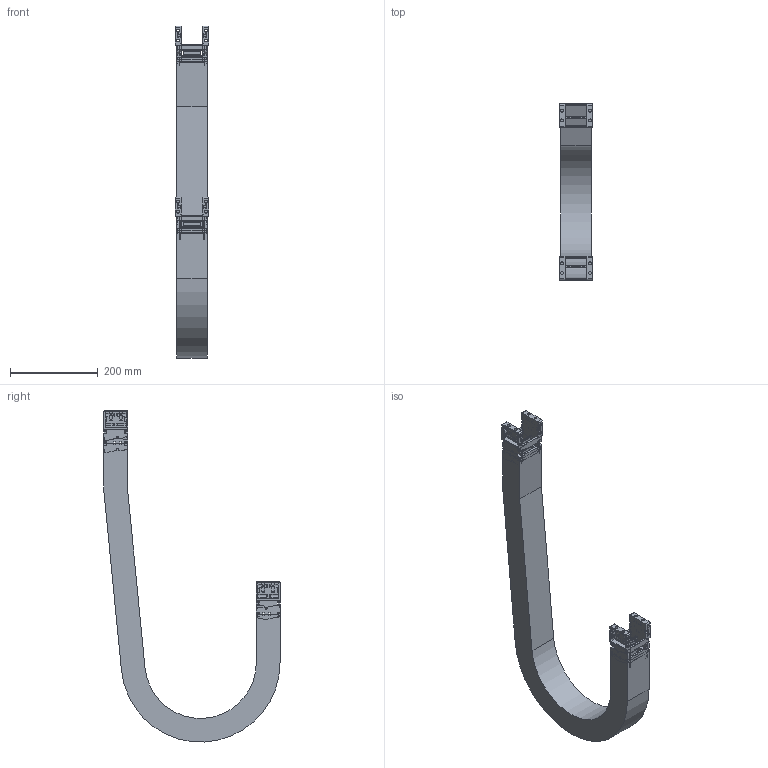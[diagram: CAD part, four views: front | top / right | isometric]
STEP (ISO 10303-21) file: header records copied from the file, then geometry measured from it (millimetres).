
FILE_DESCRIPTION((''),'2;1');
FILE_NAME('KST-40050-150_ASM','2017-12-06T',('KUNI004K'),(''),'PRO/ENGINEER BY PARAMETRIC TECHNOLOGY CORPORATION, 2015200','PRO/ENGINEER BY PARAMETRIC TECHNOLOGY CORPORATION, 2015200','');
FILE_SCHEMA(('AUTOMOTIVE_DESIGN { 1 0 10303 214 1 1 1 1 }'));
Length unit declared in the file: millimetre
Products named in the file (13): 40FBR; 40FBL; 40050C; KST40FB_W050_ASM; KST40150R; KST40150L; 40050H; KST40050-150_1_ASM; KST40050_R150_BODY; 40MBR; 40MBL; KST40MB_W050_ASM; KST-40050-150_ASM
Assembly tree (19 placements, depth 3):
  KST-40050-150_ASM
    KST40FB_W050_ASM
      40FBR
      40FBL
      40050C  x2
    KST40050-150_1_ASM  x2
      KST40150R
      KST40150L
      40050C
      40050H
    KST40050_R150_BODY
    KST40MB_W050_ASM
      40MBR
      40MBL
      40050C  x2
Bounding box: 76 x 401 x 756.33 mm (x, y, z)
Volume: 2095295.2 mm3; surface area: 692875.6 mm2
Topology: 21 solids, 21 shells, 2600 faces, 7054 edges, 4524 vertices
Faces by surface type: plane 1334, cylinder 898, bspline 304, torus 64
Entity records: 65437 total; most frequent: CARTESIAN_POINT 13362, ORIENTED_EDGE 6984, DIRECTION 6322, PRESENTATION_STYLE_ASSIGNMENT 4768, STYLED_ITEM 4768, CURVE_STYLE 3492, EDGE_CURVE 3492, VERTEX_POINT 2256
